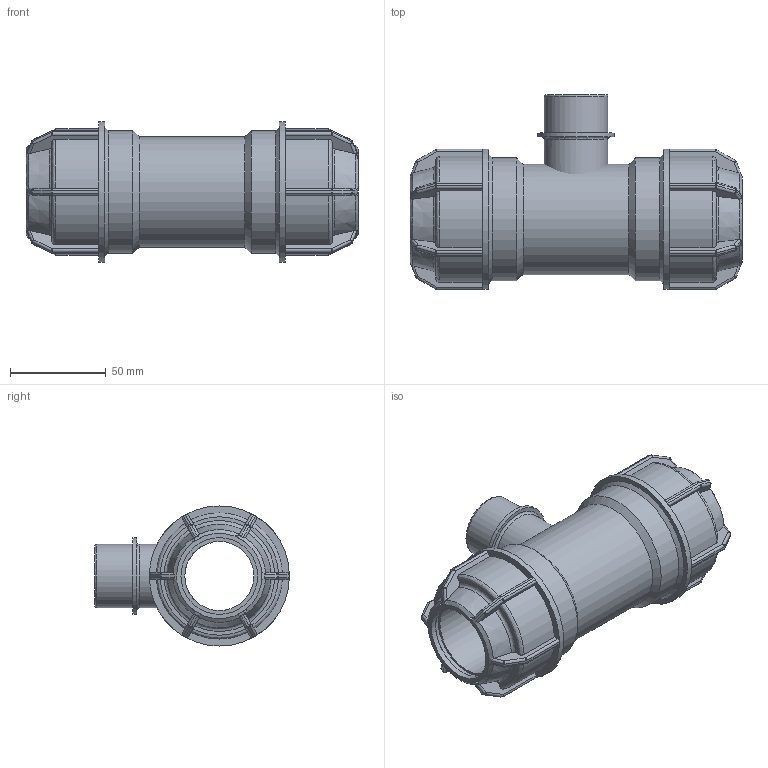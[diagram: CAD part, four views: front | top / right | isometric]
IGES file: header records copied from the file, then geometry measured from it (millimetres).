
Global section: file name: 148400040010.ipt; native system: Autodesk Inventor 2015; preprocessor: unknown; author: KIM; date: 20180409.131233; units: millimetre
Bounding box: 173 x 101.5 x 73 mm (x, y, z)
Volume: 299822.7 mm3; surface area: 75286.1 mm2
Topology: 2 solids, 2 shells, 411 faces, 987 edges, 577 vertices
Faces by surface type: plane 193, cylinder 116, sphere 48, revolution 38, cone 16
Full cylindrical faces by diameter (mm): 33.249 x2, 39.899 x1, 57.6 x1, 64 x2, 73 x2
